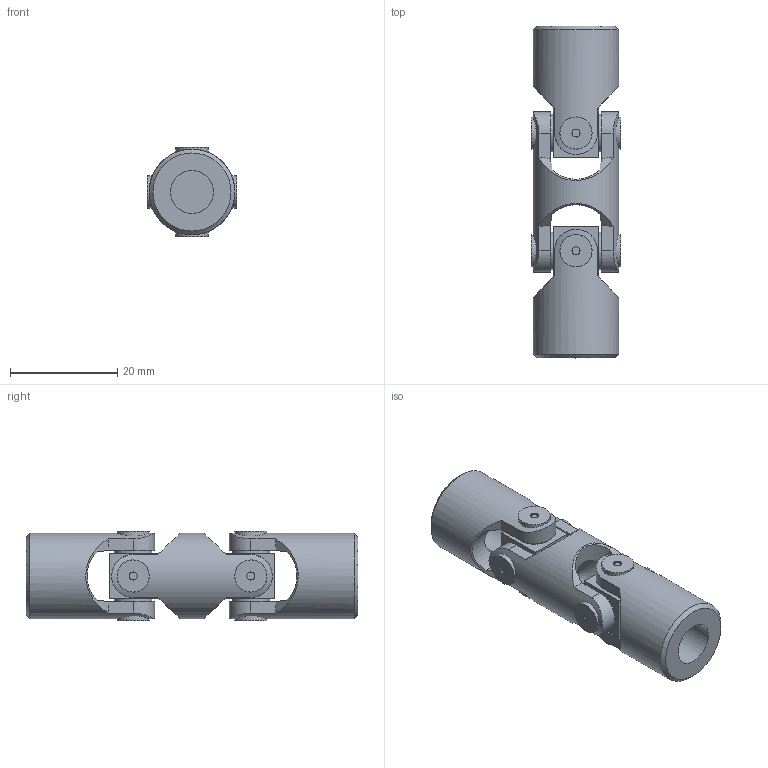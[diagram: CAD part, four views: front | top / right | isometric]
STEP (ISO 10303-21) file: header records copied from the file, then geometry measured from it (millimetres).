
FILE_DESCRIPTION(/* description */ (''),/* implementation_level */ '2;1');
FILE_NAME(/* name */ '\\SRV2016\Societa\Stefano\Disegni 3D\00Catalogo 3D\02Doppi GD-GBD\SG0D0800.stp',/* time_stamp */ '2021-11-22T16:53:26+01:00',/* author */ ('acquisti'),/* organization */ (''),/* preprocessor_version */ 'ST-DEVELOPER v15.6',/* originating_system */ 'Autodesk Inventor 2015',/* authorisation */ '');
FILE_SCHEMA (('AUTOMOTIVE_DESIGN { 1 0 10303 214 3 1 1 }'));
Length unit declared in the file: millimetre
Products named in the file (4): 01G MOD; 01-02G SFE; 02G MOS; Ø16_02GD-00_SG0D0800
Assembly tree (5 placements, depth 2):
  Ø16_02GD-00_SG0D0800
    01G MOD
    01-02G SFE  x2
    02G MOS  x2
Bounding box: 16.7 x 62 x 16.7 mm (x, y, z)
Volume: 8375.2 mm3; surface area: 6049.1 mm2
Topology: 5 solids, 5 shells, 137 faces, 339 edges, 232 vertices
Faces by surface type: plane 70, cylinder 41, cone 22, torus 4
Full cylindrical faces by diameter (mm): 1.5 x8, 6 x8, 7 x8, 8 x2, 8.5 x4, 16 x3
Entity records: 3196 total; most frequent: CARTESIAN_POINT 1136, DIRECTION 394, ORIENTED_EDGE 386, EDGE_CURVE 193, AXIS2_PLACEMENT_3D 173, VERTEX_POINT 147, EDGE_LOOP 140, FACE_OUTER_BOUND 94
